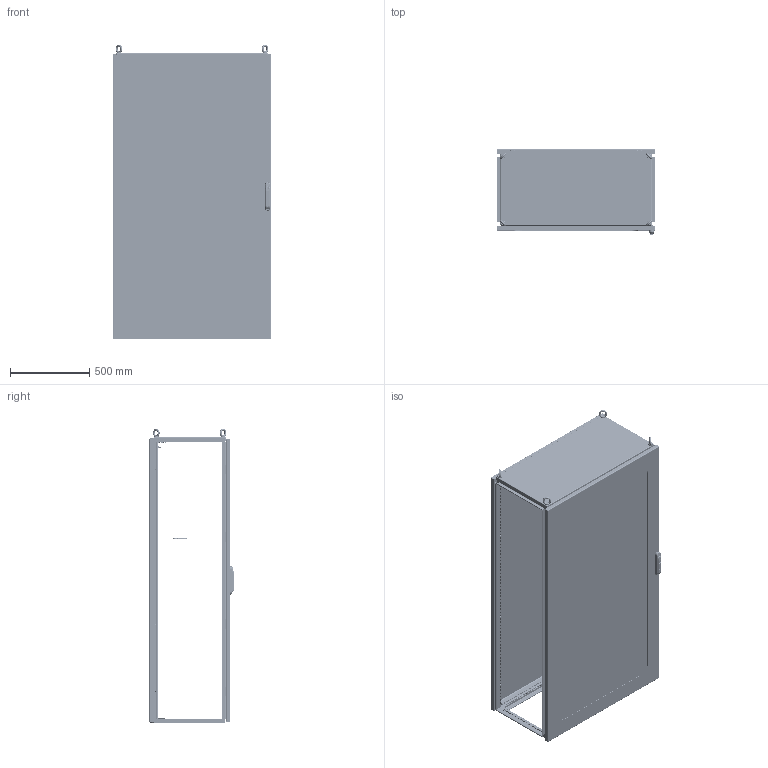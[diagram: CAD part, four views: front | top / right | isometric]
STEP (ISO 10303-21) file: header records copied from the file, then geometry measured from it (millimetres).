
FILE_DESCRIPTION(/* description */ (''),/* implementation_level */ '2;1');
FILE_NAME(/* name */ 'MLA10018050',/* time_stamp */ '2025-09-24T11:57:58+02:00',/* author */ ('INOXVENETA Spa'),/* organization */ ('www.inoxveneta.it '),/* preprocessor_version */ 'ST-DEVELOPER v19.4',/* originating_system */ 'Solid Edge',/* authorisation */ 'Unknown');
FILE_SCHEMA (('AUTOMOTIVE_DESIGN {1 0 10303 214 3 1 1}'));
Products named in the file (69): MLA10018050; F0000001.24; AE00198.03; M000X000.75; M0000000.29; AE00500.10; M000X000.43; M0000000.53; M0000000.44; M0000000.06; AE00219.03; AE00715.01; M000X000.57; M0000000.61; F0000000.18; F000X000.76; F000X000.77; F0000000.68; F0000000.07; AE00100.03_oa_0; AE00100.03_oa_1; AE00100.03_oa_2; AE00100.03_oa_3; F000X000.14; AE00989.12; M0000000.37; AE00701.03; F0000000.13; M000X002.18; F000X001.81_oa_4; F000X001.83_oa_5; F0000001.38_oa_6; F0000000.12; AE00222.15; AE00316.01; AE00992.10_oa_7; AE00992.31; AE00315.01; R1000002.13; AE00992.18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
Assembly tree (259 placements, depth 5):
  MLA10018050
    F0000001.24  x4
    AE00198.03  x16
    M000X000.75
      M0000000.29  x4
      AE00500.10  x48
      M000X000.43  x2
        M0000000.53
        M0000000.44
        M0000000.06
    AE00219.03  x8
    AE00715.01  x4
    M000X000.57
      M0000000.61
    F0000000.18
    F000X000.76
      F000X000.77
        F0000000.68
      F0000000.07  x2
      AE00100.03_oa_0
      AE00100.03_oa_1
      AE00100.03_oa_2
      AE00100.03_oa_3
    F000X000.14
      AE00989.12
    M0000000.37  x8
    AE00701.03  x4
    F0000000.13  x4
    M000X002.18
      F000X001.81_oa_4
        F000X001.83_oa_5
          F0000001.38_oa_6
        F0000000.12  x8
        AE00222.15  x8
        AE00316.01  x8
        AE00992.10_oa_7
        AE00992.31
        AE00315.01  x4
        R1000002.13  x2
        AE00992.18  x4
        AE00992.16
        AE00636.02  x8
        AE00409.01  x8
        AE00417.01  x2
        R000X001.28
          F0000002.21  x2
          F0000003.05  x2
          F0000001.46  x4
        AE00322.01  x4
      AE00413.05  x2
      M0000001.64
      C0000001.45  x2
      AE00322.01  x2
      F0000000.69  x10
      AE00192.01  x10
      ZM090300.001_oa_8
    F0000000.08  x4
    M000X000.49_oa_9
      M0000000.56
      M0000000.57
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Bounding box: 1000 x 538.7 x 1856.96 mm (x, y, z)
Volume: 15528945.3 mm3; surface area: 16491836.6 mm2
Topology: 269 solids, 270 shells, 15963 faces, 43540 edges, 28213 vertices
Faces by surface type: plane 9809, cylinder 3968, torus 738, cone 664, bspline 534, sphere 250
Full cylindrical faces by diameter (mm): 0.615 x4, 0.96 x1, 1.231 x4, 2 x4, 2.24 x2, 2.88 x1, 3 x1, 3.242 x2, 3.5 x1, 4 x13, 4.134 x11, 4.25 x204, 4.5 x960, 4.917 x73, 4.918 x8, 5 x13, 5.25 x2, 5.5 x10, 6 x78, 6.1 x20, 6.2 x8, 6.5 x34, 6.647 x6, 7.5 x2, 7.827 x6, 8 x4, 8.3 x8, 8.5 x2, 8.8 x1, 9 x48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
Entity records: 147576 total; most frequent: CARTESIAN_POINT 34663, ORIENTED_EDGE 21636, DIRECTION 21589, EDGE_CURVE 10820, LINE 7447, VECTOR 7447, VERTEX_POINT 7302, AXIS2_PLACEMENT_3D 7071
